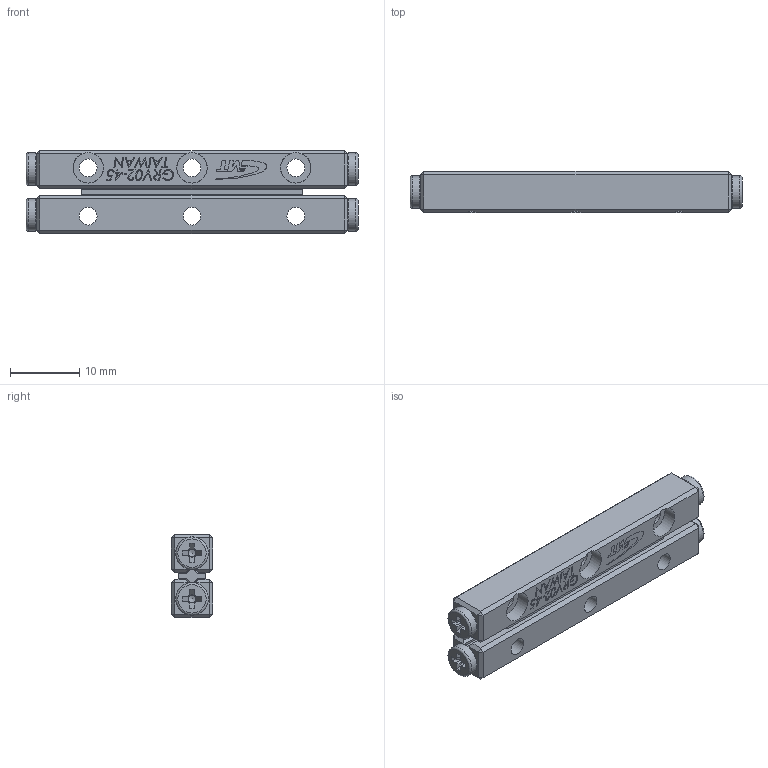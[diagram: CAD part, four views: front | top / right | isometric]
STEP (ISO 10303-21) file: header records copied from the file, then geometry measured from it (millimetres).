
FILE_DESCRIPTION (( 'STEP AP203' ), '1' );
FILE_NAME ('GRV02-45.STEP', '2023-08-14T08:42:59', ( '' ), ( '' ), 'SwSTEP 2.0', 'SolidWorks 2019', '' );
FILE_SCHEMA (( 'CONFIG_CONTROL_DESIGN' ));
Length unit declared in the file: millimetre
Products named in the file (3): GRV02-45-模糊化軌道; GRV02-45; GRVP02-45-模糊化保持器組
Assembly tree (3 placements, depth 2):
  GRV02-45
    GRV02-45-模糊化軌道  x2
    GRVP02-45-模糊化保持器組
Bounding box: 48 x 6 x 12 mm (x, y, z)
Volume: 2728.9 mm3; surface area: 3026 mm2
Topology: 3 solids, 3 shells, 788 faces, 1976 edges, 1272 vertices
Faces by surface type: plane 578, bspline 98, cylinder 52, cone 36, torus 24
Full cylindrical faces by diameter (mm): 2.55 x6, 4.4 x6, 4.7 x4
Entity records: 16617 total; most frequent: CARTESIAN_POINT 5878, ORIENTED_EDGE 2248, DIRECTION 1883, EDGE_CURVE 1124, VECTOR 807, LINE 807, VERTEX_POINT 733, AXIS2_PLACEMENT_3D 538
